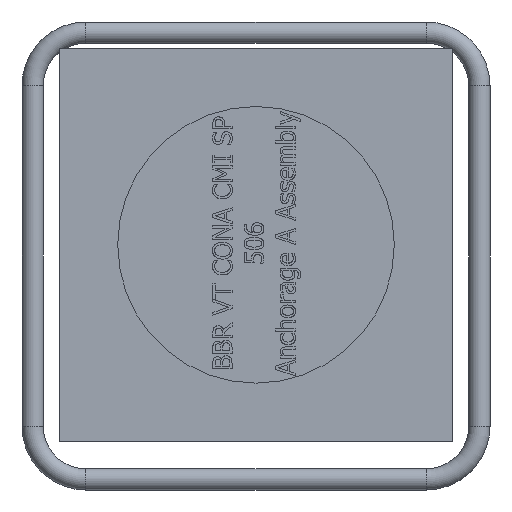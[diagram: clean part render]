
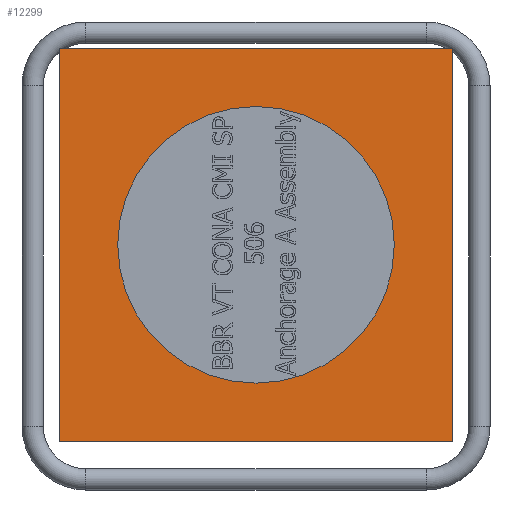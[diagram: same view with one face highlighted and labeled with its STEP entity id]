
A CAD part, left-side view. The second image highlights one B-rep face of the part: STEP entity #12299.
In plain terms, the highlighted planar face has unit normal (-1, 0, 0).
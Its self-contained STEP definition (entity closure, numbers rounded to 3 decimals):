
#1915=LINE('',#23783,#2944);
#1919=LINE('',#23791,#2948);
#1922=LINE('',#23797,#2951);
#1925=LINE('',#23802,#2954);
#2944=VECTOR('',#14508,185.);
#2948=VECTOR('',#14514,185.);
#2951=VECTOR('',#14519,185.);
#2954=VECTOR('',#14524,185.);
#3258=PLANE('',#12703);
#3380=FACE_BOUND('',#4765,.T.);
#4027=FACE_OUTER_BOUND('',#4764,.T.);
#4764=EDGE_LOOP('',(#10960,#10961,#10962,#10963));
#4765=EDGE_LOOP('',(#10964));
#4824=CIRCLE('',#12689,65.);
#5948=VERTEX_POINT('',#21766);
#5954=VERTEX_POINT('',#23781);
#5955=VERTEX_POINT('',#23782);
#5958=VERTEX_POINT('',#23790);
#5960=VERTEX_POINT('',#23796);
#7614=EDGE_CURVE('',#5948,#5948,#4824,.T.);
#7622=EDGE_CURVE('',#5954,#5955,#1915,.T.);
#7626=EDGE_CURVE('',#5955,#5958,#1919,.T.);
#7629=EDGE_CURVE('',#5958,#5960,#1922,.T.);
#7632=EDGE_CURVE('',#5960,#5954,#1925,.T.);
#10960=ORIENTED_EDGE('',*,*,#7632,.T.);
#10961=ORIENTED_EDGE('',*,*,#7622,.T.);
#10962=ORIENTED_EDGE('',*,*,#7626,.T.);
#10963=ORIENTED_EDGE('',*,*,#7629,.T.);
#10964=ORIENTED_EDGE('',*,*,#7614,.T.);
#12299=ADVANCED_FACE('',(#4027,#3380),#3258,.F.);
#12689=AXIS2_PLACEMENT_3D('',#21767,#14486,#14487);
#12703=AXIS2_PLACEMENT_3D('',#23804,#14526,#14527);
#14486=DIRECTION('center_axis',(1.,0.,0.));
#14487=DIRECTION('ref_axis',(0.,0.,
1.));
#14508=DIRECTION('',(0.,0.,-1.));
#14514=DIRECTION('',(0.,-1.,0.));
#14519=DIRECTION('',(0.,0.,1.));
#14524=DIRECTION('',(0.,1.,0.));
#14526=DIRECTION('center_axis',(1.,0.,0.));
#14527=DIRECTION('ref_axis',(0.,0.,1.));
#21766=CARTESIAN_POINT('',(-112.151,-65.,5.253));
#21767=CARTESIAN_POINT('Origin',(-112.151,0.,
5.253));
#23781=CARTESIAN_POINT('',(-112.151,92.5,97.753));
#23782=CARTESIAN_POINT('',(-112.151,92.5,-87.247));
#23783=CARTESIAN_POINT('',(-112.151,92.5,97.753));
#23790=CARTESIAN_POINT('',(-112.151,-92.5,-87.247));
#23791=CARTESIAN_POINT('',(-112.151,92.5,-87.247));
#23796=CARTESIAN_POINT('',(-112.151,-92.5,97.753));
#23797=CARTESIAN_POINT('',(-112.151,-92.5,-87.247));
#23802=CARTESIAN_POINT('',(-112.151,-92.5,97.753));
#23804=CARTESIAN_POINT('Origin',(-112.151,0.,
5.253));
